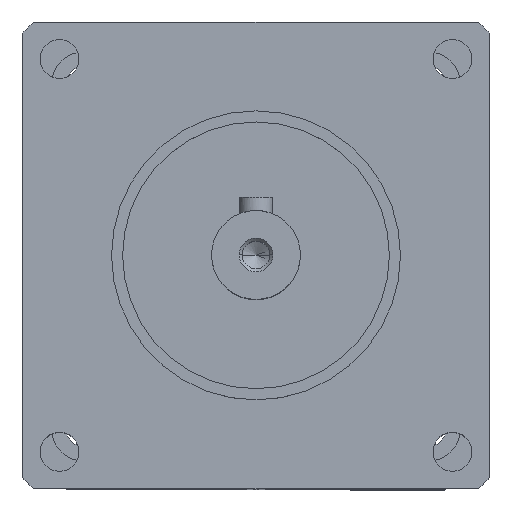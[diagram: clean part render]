
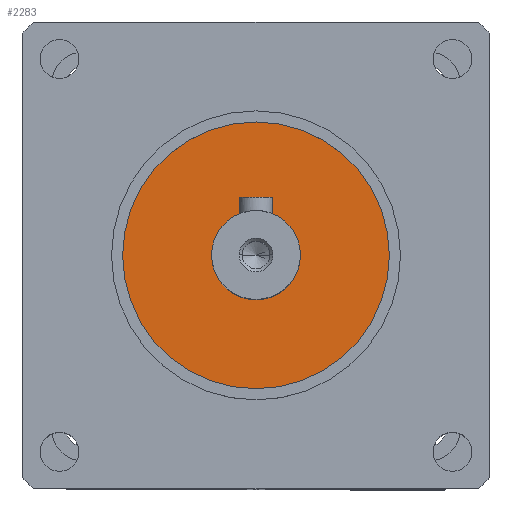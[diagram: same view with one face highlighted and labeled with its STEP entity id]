
A CAD part, top view. The second image highlights one B-rep face of the part: STEP entity #2283.
In plain terms, the highlighted planar face has unit normal (0, 0, 1).
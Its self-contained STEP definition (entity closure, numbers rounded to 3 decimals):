
#102 = EDGE_CURVE ( 'NONE', #3844, #3322, #6769, .T. ) ;
#147 = CARTESIAN_POINT ( 'NONE',  ( 0., 0., 7.2 ) ) ;
#744 = CARTESIAN_POINT ( 'NONE',  ( 0., 0., 7.2 ) ) ;
#826 = CARTESIAN_POINT ( 'NONE',  ( 0., 0., 7.2 ) ) ;
#953 = EDGE_CURVE ( 'NONE', #1821, #3341, #5364, .T. ) ;
#954 = DIRECTION ( 'NONE',  ( 0., 0., -1. ) ) ;
#1207 = PLANE ( 'NONE',  #4272 ) ;
#1211 = DIRECTION ( 'NONE',  ( 0., 0., 1. ) ) ;
#1278 = FACE_OUTER_BOUND ( 'NONE', #4015, .T. ) ;
#1382 = DIRECTION ( 'NONE',  ( 0., 0., 1. ) ) ;
#1584 = AXIS2_PLACEMENT_3D ( 'NONE', #6451, #954, #3733 ) ;
#1752 = ORIENTED_EDGE ( 'NONE', *, *, #6122, .F. ) ;
#1821 = VERTEX_POINT ( 'NONE', #4289 ) ;
#2050 = CARTESIAN_POINT ( 'NONE',  ( 12., 0., 7.2 ) ) ;
#2283 = ADVANCED_FACE ( 'NONE', ( #6170, #1278 ), #1207, .T. ) ;
#2403 = ORIENTED_EDGE ( 'NONE', *, *, #6409, .F. ) ;
#2445 = AXIS2_PLACEMENT_3D ( 'NONE', #826, #3132, #4107 ) ;
#3132 = DIRECTION ( 'NONE',  ( 0., 0., -1. ) ) ;
#3172 = ORIENTED_EDGE ( 'NONE', *, *, #953, .F. ) ;
#3322 = VERTEX_POINT ( 'NONE', #5138 ) ;
#3341 = VERTEX_POINT ( 'NONE', #4557 ) ;
#3733 = DIRECTION ( 'NONE',  ( 1., 0., 0. ) ) ;
#3844 = VERTEX_POINT ( 'NONE', #2050 ) ;
#4015 = EDGE_LOOP ( 'NONE', ( #2403, #6474 ) ) ;
#4098 = DIRECTION ( 'NONE',  ( 1., 0., 0. ) ) ;
#4107 = DIRECTION ( 'NONE',  ( 1., 0., 0. ) ) ;
#4272 = AXIS2_PLACEMENT_3D ( 'NONE', #744, #1382, #4098 ) ;
#4289 = CARTESIAN_POINT ( 'NONE',  ( -4., 0., 7.2 ) ) ;
#4557 = CARTESIAN_POINT ( 'NONE',  ( 4., 0., 7.2 ) ) ;
#4674 = AXIS2_PLACEMENT_3D ( 'NONE', #6945, #6442, #4806 ) ;
#4806 = DIRECTION ( 'NONE',  ( 1., 0., 0. ) ) ;
#5138 = CARTESIAN_POINT ( 'NONE',  ( -12., 0., 7.2 ) ) ;
#5341 = CIRCLE ( 'NONE', #1584, 12. ) ;
#5364 = CIRCLE ( 'NONE', #4674, 4. ) ;
#6066 = DIRECTION ( 'NONE',  ( 1., 0., 0. ) ) ;
#6122 = EDGE_CURVE ( 'NONE', #3341, #1821, #6814, .T. ) ;
#6170 = FACE_BOUND ( 'NONE', #6601, .T. ) ;
#6409 = EDGE_CURVE ( 'NONE', #3322, #3844, #5341, .T. ) ;
#6442 = DIRECTION ( 'NONE',  ( 0., 0., 1. ) ) ;
#6451 = CARTESIAN_POINT ( 'NONE',  ( 0., 0., 7.2 ) ) ;
#6474 = ORIENTED_EDGE ( 'NONE', *, *, #102, .F. ) ;
#6588 = AXIS2_PLACEMENT_3D ( 'NONE', #147, #1211, #6066 ) ;
#6601 = EDGE_LOOP ( 'NONE', ( #3172, #1752 ) ) ;
#6769 = CIRCLE ( 'NONE', #2445, 12. ) ;
#6814 = CIRCLE ( 'NONE', #6588, 4. ) ;
#6945 = CARTESIAN_POINT ( 'NONE',  ( 0., 0., 7.2 ) ) ;
